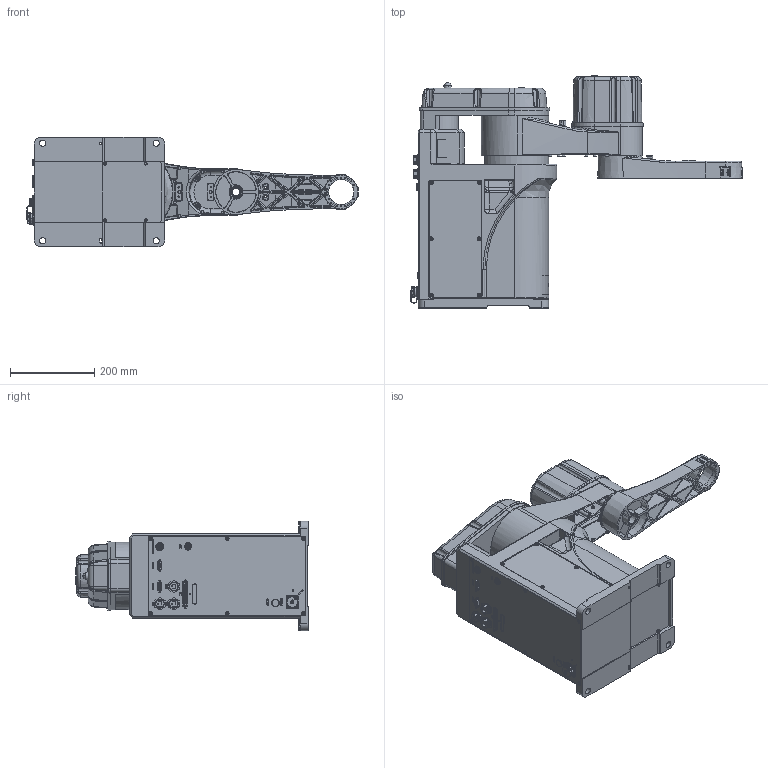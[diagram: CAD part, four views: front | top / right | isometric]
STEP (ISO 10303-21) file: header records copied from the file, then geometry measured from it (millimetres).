
FILE_DESCRIPTION (( 'STEP AP203' ), '1' );
FILE_NAME ('HM8-0500-0652-0000-V1.0.STEP', '2021-12-07T09:39:30', ( '' ), ( '' ), 'SwSTEP 2.0', 'SolidWorks 2017', '' );
FILE_SCHEMA (( 'CONFIG_CONTROL_DESIGN' ));
Products named in the file (4): HM8-0500-0652-0000-T1-V1.0; HM8-0500-0652-0000-V1.0; HM8-0500-0652-0000-T2-V1.0; HM8-0500-0652-0000-T3-V1.0
Assembly tree (3 placements, depth 2):
  HM8-0500-0652-0000-V1.0
    HM8-0500-0652-0000-T2-V1.0
    HM8-0500-0652-0000-T3-V1.0
    HM8-0500-0652-0000-T1-V1.0
Bounding box: 789.6 x 552 x 260 mm (x, y, z)
Volume: 625377.5 mm3; surface area: 1203687.7 mm2
Topology: 1 solids, 64 shells, 4872 faces, 12944 edges, 8256 vertices
Faces by surface type: plane 1876, cylinder 1199, bspline 925, cone 712, torus 105, sphere 55
Entity records: 243839 total; most frequent: CARTESIAN_POINT 132187, ORIENTED_EDGE 24844, DIRECTION 20059, EDGE_CURVE 12743, VERTEX_POINT 8237, AXIS2_PLACEMENT_3D 7074, VECTOR 5911, LINE 5911
